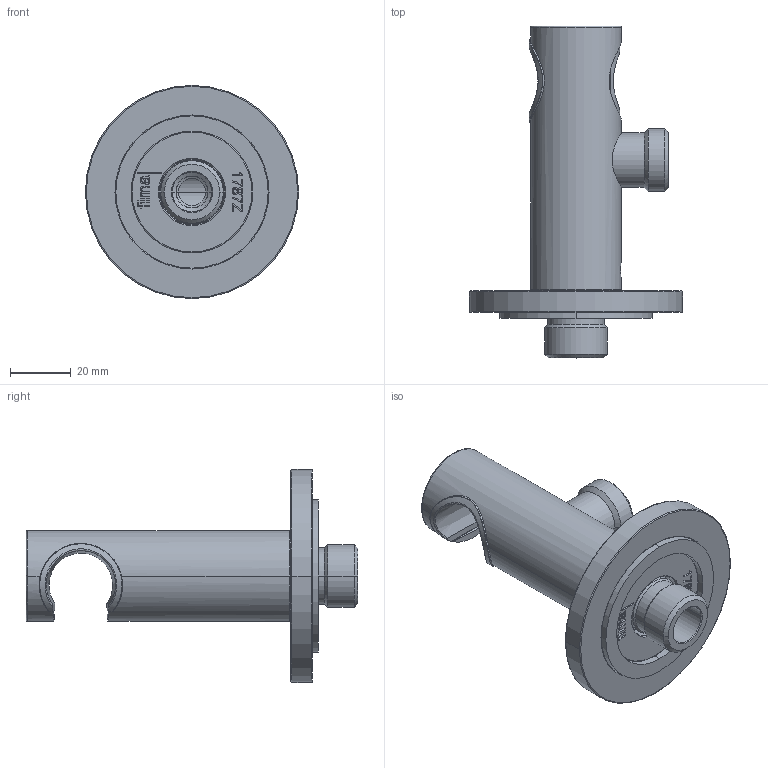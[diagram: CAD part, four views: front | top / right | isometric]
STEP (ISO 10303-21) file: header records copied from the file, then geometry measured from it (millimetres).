
FILE_DESCRIPTION((''),'2;1');
FILE_NAME('F2287N_ASM','2023-06-16T12:59:12',('marcop'),(''),'CREO PARAMETRIC BY PTC INC, 2021184','CREO PARAMETRIC BY PTC INC, 2021184','');
FILE_SCHEMA(('CONFIG_CONTROL_DESIGN'));
Length unit declared in the file: millimetre
Products named in the file (9): 6339N; 7483_ATT_A_PARETE_PORTADOC_REV1; 7483MON_ATT_PORTA_DOCCIA_REV1_ASM; 6845_RAC_G1-2_EXT_DOC_THER_REV1; 6845MON_ASM; 1787ZCRO; 5735; 1793; F2287N_ASM
Assembly tree (8 placements, depth 3):
  F2287N_ASM
    6339N
    7483MON_ATT_PORTA_DOCCIA_REV1_ASM
      7483_ATT_A_PARETE_PORTADOC_REV1
    6845MON_ASM
      6845_RAC_G1-2_EXT_DOC_THER_REV1
    1787ZCRO
    5735
    1793
Bounding box: 70 x 109 x 70 mm (x, y, z)
Volume: 73366.3 mm3; surface area: 37012.6 mm2
Topology: 7 solids, 7 shells, 535 faces, 1283 edges, 778 vertices
Faces by surface type: plane 168, cylinder 127, extrusion 84, cone 52, bspline 47, torus 39, sphere 18
Entity records: 19288 total; most frequent: CARTESIAN_POINT 7319, ORIENTED_EDGE 2550, DIRECTION 2219, EDGE_CURVE 1275, AXIS2_PLACEMENT_3D 779, VERTEX_POINT 778, VECTOR 661, LINE 577
